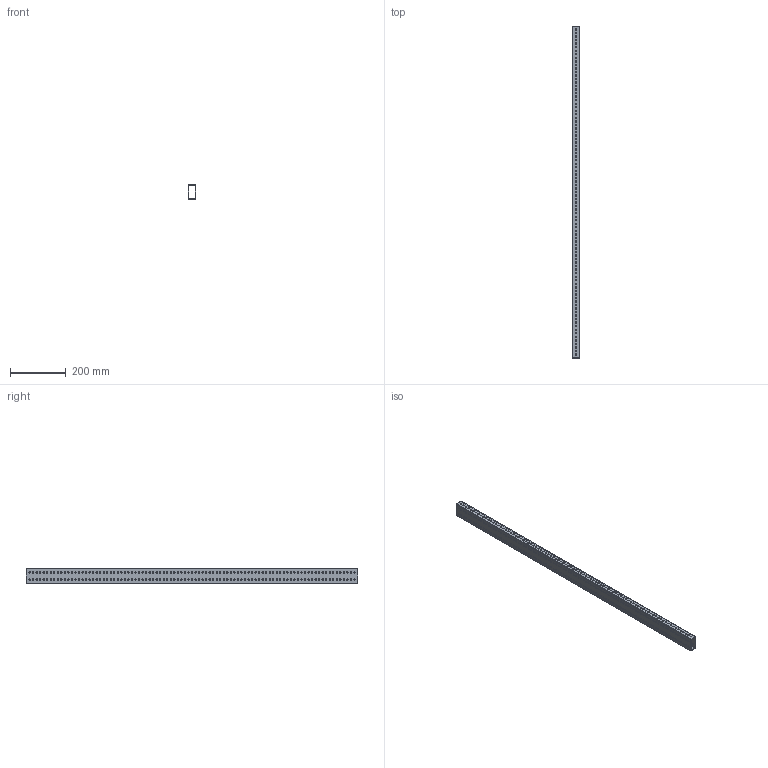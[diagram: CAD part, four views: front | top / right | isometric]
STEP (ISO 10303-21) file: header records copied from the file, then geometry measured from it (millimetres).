
FILE_DESCRIPTION(/* description */ (''),/* implementation_level */ '2;1');
FILE_NAME(/* name */ 'SR-TUBE-2X1-0.035-GRID v1.step',/* time_stamp */ '2025-04-30T16:09:59-05:00',/* author */ (''),/* organization */ (''),/* preprocessor_version */ 'ST-DEVELOPER v20.1',/* originating_system */ 'Autodesk Translation Framework v14.4.0.0',/* authorisation */ '');
FILE_SCHEMA (('AUTOMOTIVE_DESIGN { 1 0 10303 214 3 1 1 }'));
Length unit declared in the file: inch
Products named in the file (1): FusionComponent
Bounding box: 25.4 x 1193.8 x 50.8 mm (x, y, z)
Volume: 154511.2 mm3; surface area: 336459 mm2
Topology: 1 solids, 1 shells, 572 faces, 1710 edges, 1140 vertices
Faces by surface type: cylinder 562, plane 10
Full cylindrical faces by diameter (mm): 5 x558
Entity records: 22229 total; most frequent: DIRECTION 3980, CARTESIAN_POINT 3423, ORIENTED_EDGE 3420, EDGE_CURVE 1710, AXIS2_PLACEMENT_3D 1697, EDGE_LOOP 1690, VERTEX_POINT 1140, CIRCLE 1124
